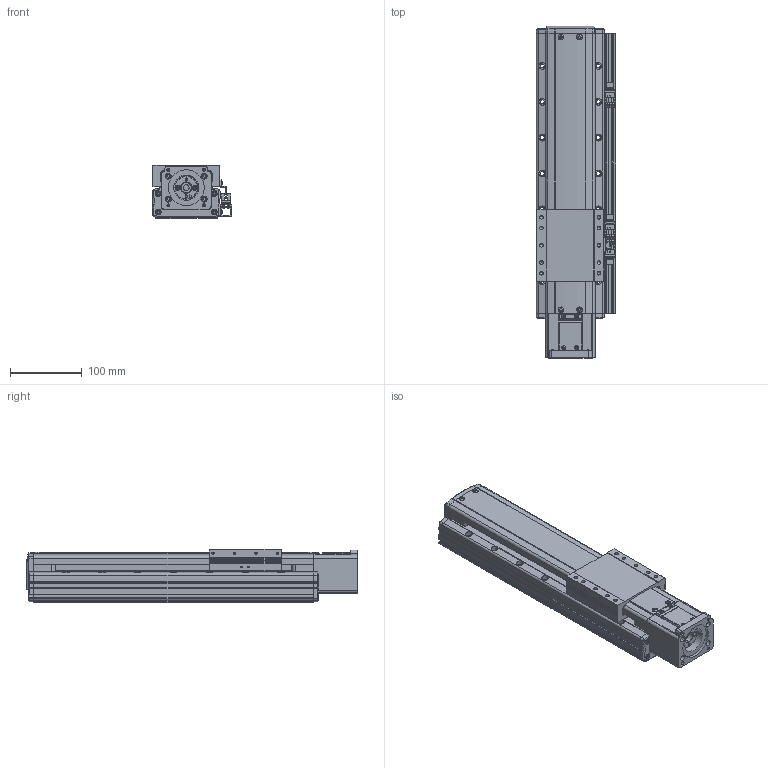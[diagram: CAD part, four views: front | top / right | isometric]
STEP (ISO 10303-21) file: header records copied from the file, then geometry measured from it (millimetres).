
FILE_DESCRIPTION(('STEP AP214'),'1');
FILE_NAME('Z:/Web/3D/PSA95/STP/PSA95-200 (3D)/PSA95ㅁㅁ-200S+3SR.stp','2014-07-02T23:44:49',(' '),(' '),'Spatial InterOp 3D',' ',' ');
FILE_SCHEMA(('automotive_design'));
Length unit declared in the file: millimetre
Products named in the file (53): BASE; RRCV; 스크루 : Round - M4.0 x 10.0; 너트 : Square - M10.0 x 220.7419; RR1500; FRCV-090; 스크루 : Round - M4.0 x 6.0; SLBL-PA90; SSFX-SAN65; CPLCV-SAN65; 스크루 : Round - M3.0 x 6.0; MTHZ-PA70/90-S60A-3; 스크루 : Socket - M4.0 x 20.0; NONE; EE-SX674; SBK-SX674-352; M3.0 x 6.0; SRL-16x17-380L; SGD-PA95; 스크루 : Round - M3.0 x 8.0
Bounding box: 111 x 462.5 x 74 mm (x, y, z)
Volume: 2462188.9 mm3; surface area: 372225 mm2
Topology: 53 solids, 87 shells, 3500 faces, 8980 edges, 5706 vertices
Faces by surface type: plane 1807, cylinder 1042, cone 395, torus 158, sphere 66, bspline 32
Entity records: 137942 total; most frequent: CARTESIAN_POINT 22252, DIRECTION 18792, ORIENTED_EDGE 17696, EDGE_CURVE 8848, AXIS2_PLACEMENT_3D 6648, VERTEX_POINT 5706, LINE 5496, VECTOR 5496
